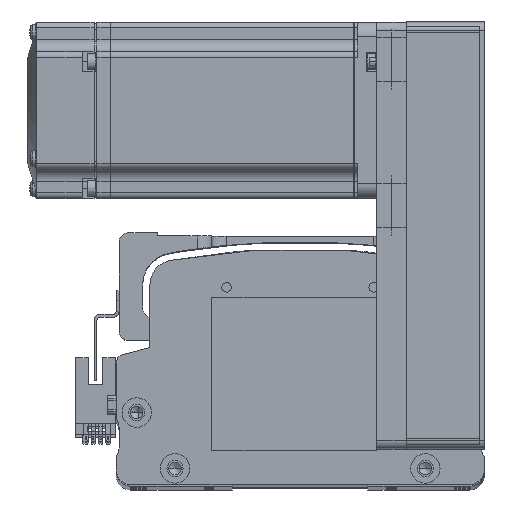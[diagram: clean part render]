
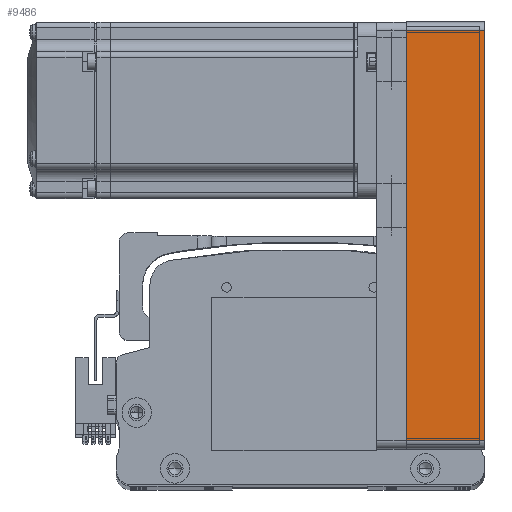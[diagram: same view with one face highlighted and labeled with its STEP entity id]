
A CAD part, top view. The second image highlights one B-rep face of the part: STEP entity #9486.
In plain terms, the highlighted planar face has unit normal (0, 0, 1) as drawn and (0, 1, 0) by its records, which use the part's own axes.
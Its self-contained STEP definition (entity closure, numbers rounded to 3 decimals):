
#993 = VECTOR ( 'NONE', #55484, 1000. ) ;
#1699 = ORIENTED_EDGE ( 'NONE', *, *, #34824, .F. ) ;
#2997 = LINE ( 'NONE', #36196, #993 ) ;
#7670 = CARTESIAN_POINT ( 'NONE',  ( -69.5, 30., 0. ) ) ;
#8569 = EDGE_CURVE ( 'NONE', #75074, #8718, #44292, .T. ) ;
#8718 = VERTEX_POINT ( 'NONE', #7670 ) ;
#9486 = ADVANCED_FACE ( 'NONE', ( #35042 ), #28233, .F. ) ;
#23717 = VECTOR ( 'NONE', #64632, 1000. ) ;
#25335 = CARTESIAN_POINT ( 'NONE',  ( 69.5, 30., 26.5 ) ) ;
#28233 = PLANE ( 'NONE',  #44897 ) ;
#28771 = DIRECTION ( 'NONE',  ( 0., -1., 0. ) ) ;
#29332 = CARTESIAN_POINT ( 'NONE',  ( 72.5, 30., 0. ) ) ;
#29577 = VERTEX_POINT ( 'NONE', #25335 ) ;
#34824 = EDGE_CURVE ( 'NONE', #29577, #36366, #58172, .T. ) ;
#35030 = ORIENTED_EDGE ( 'NONE', *, *, #36576, .T. ) ;
#35042 = FACE_OUTER_BOUND ( 'NONE', #75841, .T. ) ;
#36196 = CARTESIAN_POINT ( 'NONE',  ( -69.5, 30., 26.5 ) ) ;
#36366 = VERTEX_POINT ( 'NONE', #67461 ) ;
#36576 = EDGE_CURVE ( 'NONE', #29577, #75074, #40676, .T. ) ;
#40350 = EDGE_CURVE ( 'NONE', #8718, #36366, #2997, .T. ) ;
#40676 = LINE ( 'NONE', #51787, #23717 ) ;
#41160 = VECTOR ( 'NONE', #62434, 1000. ) ;
#42339 = CARTESIAN_POINT ( 'NONE',  ( 69.5, 30., 0. ) ) ;
#44292 = LINE ( 'NONE', #29332, #59283 ) ;
#44897 = AXIS2_PLACEMENT_3D ( 'NONE', #67021, #28771, #73426 ) ;
#49574 = CARTESIAN_POINT ( 'NONE',  ( 72.5, 30., 26.5 ) ) ;
#50561 = ORIENTED_EDGE ( 'NONE', *, *, #40350, .T. ) ;
#51787 = CARTESIAN_POINT ( 'NONE',  ( 69.5, 30., 26.5 ) ) ;
#55484 = DIRECTION ( 'NONE',  ( 0., 0., 1. ) ) ;
#58172 = LINE ( 'NONE', #49574, #41160 ) ;
#59283 = VECTOR ( 'NONE', #73976, 1000. ) ;
#62434 = DIRECTION ( 'NONE',  ( -1., 0., 0. ) ) ;
#64632 = DIRECTION ( 'NONE',  ( 0., 0., -1. ) ) ;
#66302 = ORIENTED_EDGE ( 'NONE', *, *, #8569, .T. ) ;
#67021 = CARTESIAN_POINT ( 'NONE',  ( 72.5, 30., 26.5 ) ) ;
#67461 = CARTESIAN_POINT ( 'NONE',  ( -69.5, 30., 26.5 ) ) ;
#73426 = DIRECTION ( 'NONE',  ( 1., 0., 0. ) ) ;
#73976 = DIRECTION ( 'NONE',  ( -1., 0., 0. ) ) ;
#75074 = VERTEX_POINT ( 'NONE', #42339 ) ;
#75841 = EDGE_LOOP ( 'NONE', ( #66302, #50561, #1699, #35030 ) ) ;
